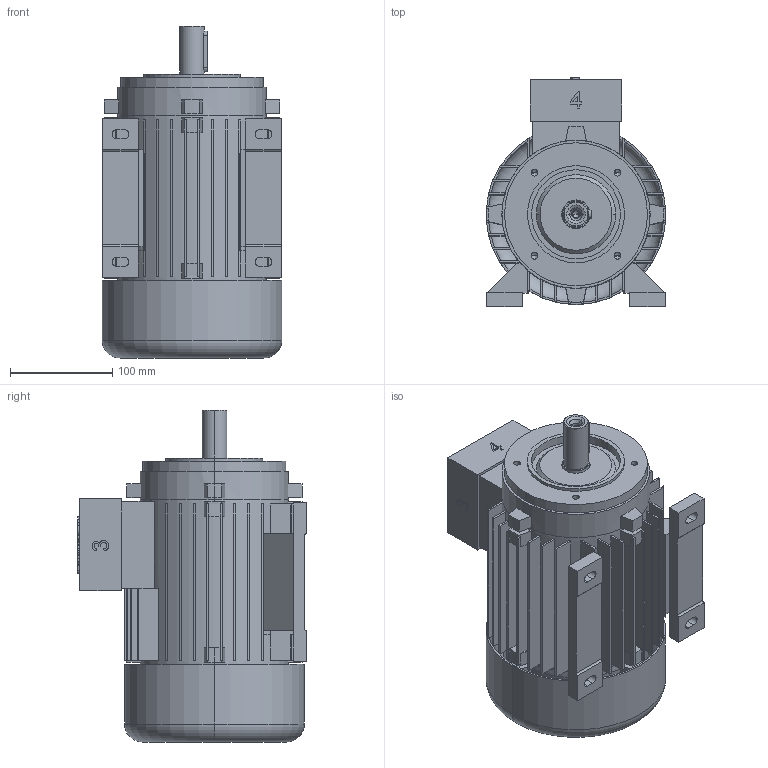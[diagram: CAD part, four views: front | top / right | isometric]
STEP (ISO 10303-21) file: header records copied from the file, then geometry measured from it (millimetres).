
FILE_DESCRIPTION (( 'STEP AP214' ), '1' );
FILE_NAME ('20.18272-F 5AZ 90L B34 small STANDK.STEP', '2018-07-16T11:59:10', ( '' ), ( '' ), 'SwSTEP 2.0', 'SolidWorks 2018', '' );
FILE_SCHEMA (( 'AUTOMOTIVE_DESIGN' ));
Length unit declared in the file: millimetre
Products named in the file (1): 20.18272-F 5AZ 90L B34 small STANDK
Bounding box: 176 x 224 x 325 mm (x, y, z)
Volume: 2063008.4 mm3; surface area: 660715.2 mm2
Topology: 9 solids, 9 shells, 575 faces, 1484 edges, 973 vertices
Faces by surface type: plane 376, cylinder 135, bspline 34, cone 26, torus 4
Entity records: 18973 total; most frequent: CARTESIAN_POINT 4721, ORIENTED_EDGE 2948, DIRECTION 2892, EDGE_CURVE 1474, LINE 980, VECTOR 980, VERTEX_POINT 973, AXIS2_PLACEMENT_3D 956
